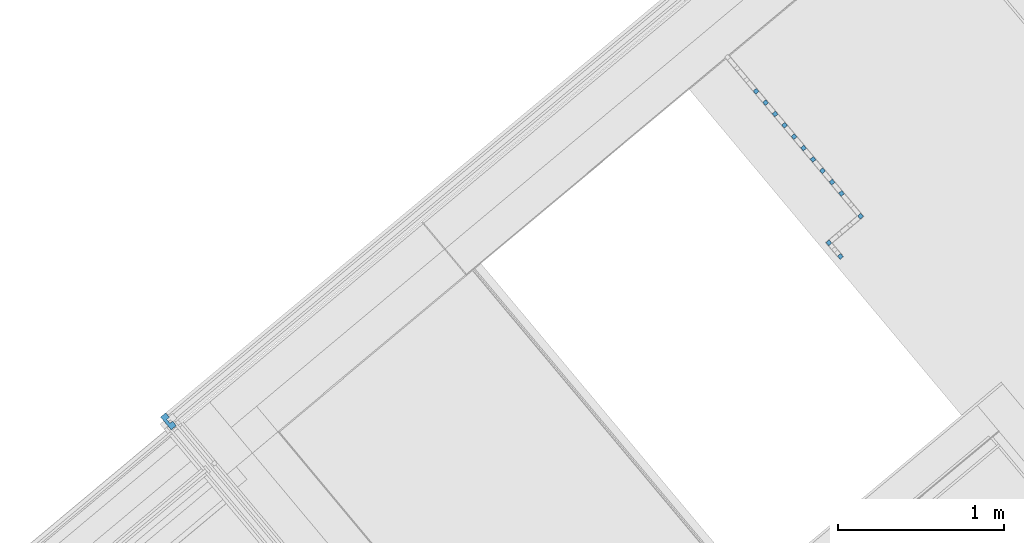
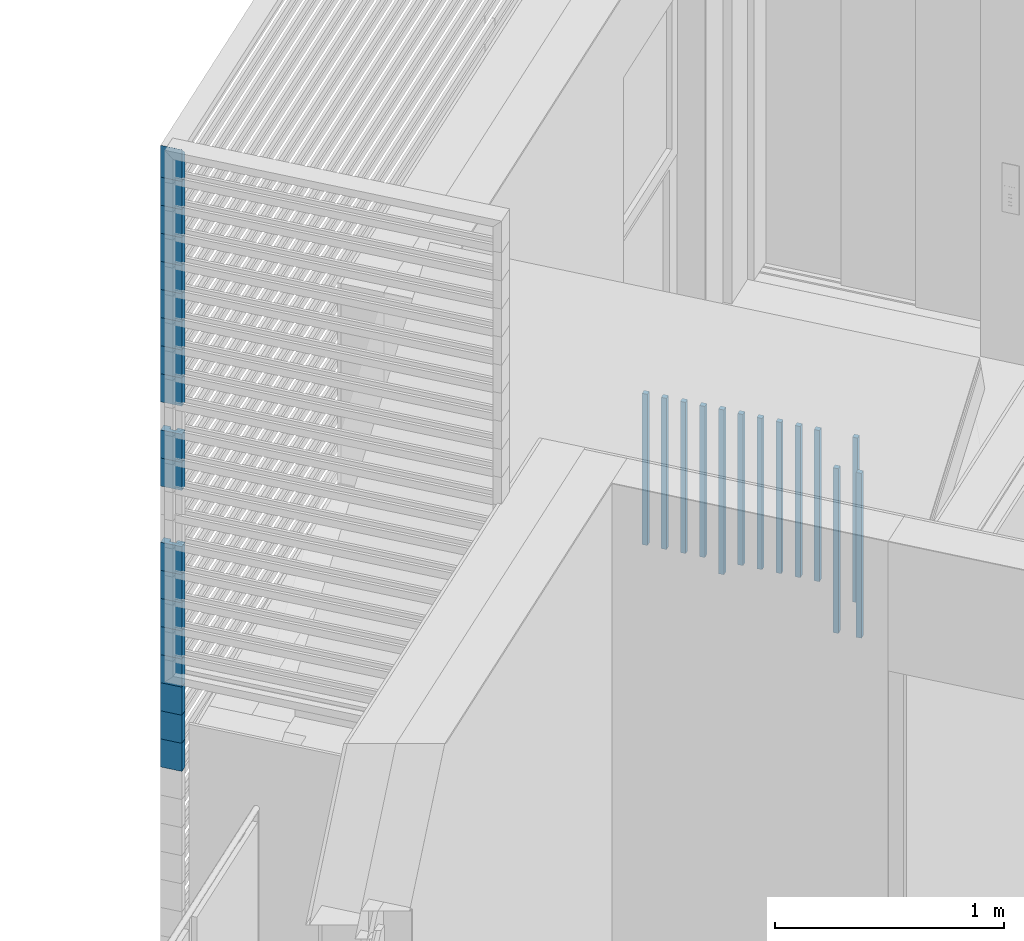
# One storey, part 39 of 47: 32 building element parts, 2 elements without a shape of their own.
"""IFC4 building model written with IfcOpenShell, lengths in metres."""

from ifc_helpers import new_model, entity, si_unit, converted_unit, derived_unit, direction, frame, origin_with_axes, place, context, subcontext, project, spatial, polygons, material, type_object, element, aggregate, save


model = new_model("IFC4")

# Units and contexts
model_context = context("Model", 3, precision=1e-05, world=origin_with_axes(), true_north=direction((0.0, 1.0)))
body_context = subcontext(model_context, "Body", "Model", "MODEL_VIEW")
ifc_project = project(units=[si_unit("LENGTHUNIT", "METRE"), si_unit("AREAUNIT", "SQUARE_METRE"), si_unit("VOLUMEUNIT", "CUBIC_METRE"), converted_unit("PLANEANGLEUNIT", "DEGREE", entity("IfcPlaneAngleMeasure", 0.0174532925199), si_unit("PLANEANGLEUNIT", "RADIAN"), dimensions=[0, 0, 0, 0, 0, 0, 0]), converted_unit("TIMEUNIT", "Year", entity("IfcTimeMeasure", 31556926.0), si_unit("TIMEUNIT", "SECOND"), dimensions=[0, 0, 1, 0, 0, 0, 0]), si_unit("MASSUNIT", "GRAM", prefix="KILO"), si_unit("THERMODYNAMICTEMPERATUREUNIT", "DEGREE_CELSIUS"), si_unit("LUMINOUSINTENSITYUNIT", "LUMEN"), si_unit("ENERGYUNIT", "JOULE", prefix="MEGA"), derived_unit("THERMALCONDUCTANCEUNIT", [(si_unit("POWERUNIT", "WATT"), 1), (si_unit("LENGTHUNIT", "METRE"), -1), (si_unit("THERMODYNAMICTEMPERATUREUNIT", "KELVIN"), -1)]), derived_unit("SPECIFICHEATCAPACITYUNIT", [(si_unit("ENERGYUNIT", "JOULE"), 1), (si_unit("MASSUNIT", "GRAM", prefix="KILO"), -1), (si_unit("THERMODYNAMICTEMPERATUREUNIT", "KELVIN"), -1)]), derived_unit("MASSDENSITYUNIT", [(si_unit("MASSUNIT", "GRAM", prefix="KILO"), 1), (si_unit("VOLUMEUNIT", "CUBIC_METRE"), -1)])], contexts=[model_context])

# Site, building, storey
site_placement = place(None, frame((-0.00153261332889, -0.00661245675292, 0.0), z_axis=(0.0, 0.0, 1.0), x_axis=(1.0, 0.0, 0.0)))
site = spatial("IfcSite", under=ifc_project, at=site_placement, Name="Site", CompositionType="ELEMENT")
building_placement = place(site_placement, origin_with_axes())
building = spatial("IfcBuilding", under=site, at=building_placement, Name="Building", CompositionType="ELEMENT")
storey_placement = place(building_placement, frame((0.0, 0.0, 8.66), z_axis=(0.0, 0.0, 1.0), x_axis=(1.0, 0.0, 0.0)))
storey = spatial("IfcBuildingStorey", under=building, at=storey_placement, Name="DG2", CompositionType="ELEMENT", Elevation=8.66)

# Curtain wall, building element parts
curtain_wall_type = type_object("IfcCurtainWallType", Name="Fassadentyp", PredefinedType="NOTDEFINED")
curtain_wall_placement = place(storey_placement, frame((-2.95253507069, 23.8775371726, 0.32), z_axis=(0.0, 0.0, 1.0), x_axis=(1.0, 0.0, 0.0)))
curtain_wall = element("IfcCurtainWall", 1, at=curtain_wall_placement, inside=storey, type_object=curtain_wall_type, Name="Fassade-001", PredefinedType="NOTDEFINED")
ifc_material_1 = material(Name="Blech")
building_element_part_1_placement = place(curtain_wall_placement, origin_with_axes())
building_element_part_1 = element("IfcBuildingElementPart", 2, at=building_element_part_1_placement, material=ifc_material_1, Name="Blech", PredefinedType="NOTDEFINED", context=body_context, shape_type="Tessellation", body=[
    polygons([(-1.52830488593, -1.29478343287, 1.2), (-1.54752517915, -1.27174910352, 1.2), (-1.53216895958, -1.25893557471, 1.2), (-1.554592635, -1.23206219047, 1.2), (-1.58530507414, -1.25768924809, 1.2), (-1.52123743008, -1.33447034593, 1.2), (-1.49052499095, -1.3088432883, 1.2), (-1.51294866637, -1.28196990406, 1.2), (-1.52830488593, -1.29478343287, 1.05), (-1.54752517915, -1.27174910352, 1.05), (-1.53216895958, -1.25893557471, 1.05), (-1.554592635, -1.23206219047, 1.05), (-1.58530507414, -1.25768924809, 1.05), (-1.52123743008, -1.33447034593, 1.05), (-1.49052499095, -1.3088432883, 1.05), (-1.51294866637, -1.28196990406, 1.05)], [[[1, 2, 3, 4, 5, 6, 7, 8]], [[2, 1, 9, 10]], [[11, 3, 2, 10]], [[3, 11, 12, 4]], [[13, 5, 4, 12]], [[14, 6, 5, 13]], [[15, 7, 6, 14]], [[16, 8, 7, 15]], [[1, 8, 16, 9]], [[9, 16, 15, 14, 13, 12, 11, 10]]], closed=True),
])
building_element_part_2_placement = place(curtain_wall_placement, origin_with_axes())
building_element_part_2 = element("IfcBuildingElementPart", 3, at=building_element_part_2_placement, material=ifc_material_1, Name="Blech", PredefinedType="NOTDEFINED", context=body_context, shape_type="Tessellation", body=[
    polygons([(-1.52830488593, -1.29478343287, 2.85), (-1.54752517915, -1.27174910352, 2.85), (-1.53216895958, -1.25893557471, 2.85), (-1.554592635, -1.23206219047, 2.85), (-1.58530507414, -1.25768924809, 2.85), (-1.52123743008, -1.33447034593, 2.85), (-1.49052499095, -1.3088432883, 2.85), (-1.51294866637, -1.28196990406, 2.85), (-1.52830488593, -1.29478343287, 2.7), (-1.54752517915, -1.27174910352, 2.7), (-1.53216895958, -1.25893557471, 2.7), (-1.554592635, -1.23206219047, 2.7), (-1.58530507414, -1.25768924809, 2.7), (-1.52123743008, -1.33447034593, 2.7), (-1.49052499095, -1.3088432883, 2.7), (-1.51294866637, -1.28196990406, 2.7)], [[[1, 2, 3, 4, 5, 6, 7, 8]], [[2, 1, 9, 10]], [[11, 3, 2, 10]], [[3, 11, 12, 4]], [[13, 5, 4, 12]], [[14, 6, 5, 13]], [[15, 7, 6, 14]], [[16, 8, 7, 15]], [[1, 8, 16, 9]], [[9, 16, 15, 14, 13, 12, 11, 10]]], closed=True),
])
building_element_part_3_placement = place(curtain_wall_placement, origin_with_axes())
building_element_part_3 = element("IfcBuildingElementPart", 4, at=building_element_part_3_placement, material=ifc_material_1, Name="Blech", PredefinedType="NOTDEFINED", context=body_context, shape_type="Tessellation", body=[
    polygons([(-1.52830488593, -1.29478343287, 1.35), (-1.54752517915, -1.27174910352, 1.35), (-1.53216895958, -1.25893557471, 1.35), (-1.554592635, -1.23206219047, 1.35), (-1.58530507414, -1.25768924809, 1.35), (-1.52123743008, -1.33447034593, 1.35), (-1.49052499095, -1.3088432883, 1.35), (-1.51294866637, -1.28196990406, 1.35), (-1.52830488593, -1.29478343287, 1.2), (-1.54752517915, -1.27174910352, 1.2), (-1.53216895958, -1.25893557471, 1.2), (-1.554592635, -1.23206219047, 1.2), (-1.58530507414, -1.25768924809, 1.2), (-1.52123743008, -1.33447034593, 1.2), (-1.49052499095, -1.3088432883, 1.2), (-1.51294866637, -1.28196990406, 1.2)], [[[1, 2, 3, 4, 5, 6, 7, 8]], [[2, 1, 9, 10]], [[11, 3, 2, 10]], [[3, 11, 12, 4]], [[13, 5, 4, 12]], [[14, 6, 5, 13]], [[15, 7, 6, 14]], [[16, 8, 7, 15]], [[1, 8, 16, 9]], [[9, 16, 15, 14, 13, 12, 11, 10]]], closed=True),
])
building_element_part_4_placement = place(curtain_wall_placement, origin_with_axes())
building_element_part_4 = element("IfcBuildingElementPart", 5, at=building_element_part_4_placement, material=ifc_material_1, Name="Blech", PredefinedType="NOTDEFINED", context=body_context, shape_type="Tessellation", body=[
    polygons([(-1.52830488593, -1.29478343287, 1.5), (-1.54752517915, -1.27174910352, 1.5), (-1.53216895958, -1.25893557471, 1.5), (-1.554592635, -1.23206219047, 1.5), (-1.58530507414, -1.25768924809, 1.5), (-1.52123743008, -1.33447034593, 1.5), (-1.49052499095, -1.3088432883, 1.5), (-1.51294866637, -1.28196990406, 1.5), (-1.52830488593, -1.29478343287, 1.35), (-1.54752517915, -1.27174910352, 1.35), (-1.53216895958, -1.25893557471, 1.35), (-1.554592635, -1.23206219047, 1.35), (-1.58530507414, -1.25768924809, 1.35), (-1.52123743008, -1.33447034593, 1.35), (-1.49052499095, -1.3088432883, 1.35), (-1.51294866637, -1.28196990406, 1.35)], [[[1, 2, 3, 4, 5, 6, 7, 8]], [[2, 1, 9, 10]], [[11, 3, 2, 10]], [[3, 11, 12, 4]], [[13, 5, 4, 12]], [[14, 6, 5, 13]], [[15, 7, 6, 14]], [[16, 8, 7, 15]], [[1, 8, 16, 9]], [[9, 16, 15, 14, 13, 12, 11, 10]]], closed=True),
])
building_element_part_5_placement = place(curtain_wall_placement, origin_with_axes())
building_element_part_5 = element("IfcBuildingElementPart", 6, at=building_element_part_5_placement, material=ifc_material_1, Name="Blech", PredefinedType="NOTDEFINED", context=body_context, shape_type="Tessellation", body=[
    polygons([(-1.52830488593, -1.29478343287, 1.65), (-1.54752517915, -1.27174910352, 1.65), (-1.53216895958, -1.25893557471, 1.65), (-1.554592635, -1.23206219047, 1.65), (-1.58530507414, -1.25768924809, 1.65), (-1.52123743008, -1.33447034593, 1.65), (-1.49052499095, -1.3088432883, 1.65), (-1.51294866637, -1.28196990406, 1.65), (-1.52830488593, -1.29478343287, 1.5), (-1.54752517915, -1.27174910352, 1.5), (-1.53216895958, -1.25893557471, 1.5), (-1.554592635, -1.23206219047, 1.5), (-1.58530507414, -1.25768924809, 1.5), (-1.52123743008, -1.33447034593, 1.5), (-1.49052499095, -1.3088432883, 1.5), (-1.51294866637, -1.28196990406, 1.5)], [[[1, 2, 3, 4, 5, 6, 7, 8]], [[2, 1, 9, 10]], [[11, 3, 2, 10]], [[3, 11, 12, 4]], [[13, 5, 4, 12]], [[14, 6, 5, 13]], [[15, 7, 6, 14]], [[16, 8, 7, 15]], [[1, 8, 16, 9]], [[9, 16, 15, 14, 13, 12, 11, 10]]], closed=True),
])
building_element_part_6_placement = place(curtain_wall_placement, origin_with_axes())
building_element_part_6 = element("IfcBuildingElementPart", 7, at=building_element_part_6_placement, material=ifc_material_1, Name="Blech", PredefinedType="NOTDEFINED", context=body_context, shape_type="Tessellation", body=[
    polygons([(-1.52830488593, -1.29478343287, 1.8), (-1.54752517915, -1.27174910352, 1.8), (-1.53216895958, -1.25893557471, 1.8), (-1.554592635, -1.23206219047, 1.8), (-1.58530507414, -1.25768924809, 1.8), (-1.52123743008, -1.33447034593, 1.8), (-1.49052499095, -1.3088432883, 1.8), (-1.51294866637, -1.28196990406, 1.8), (-1.52830488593, -1.29478343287, 1.65), (-1.54752517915, -1.27174910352, 1.65), (-1.53216895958, -1.25893557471, 1.65), (-1.554592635, -1.23206219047, 1.65), (-1.58530507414, -1.25768924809, 1.65), (-1.52123743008, -1.33447034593, 1.65), (-1.49052499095, -1.3088432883, 1.65), (-1.51294866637, -1.28196990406, 1.65)], [[[1, 2, 3, 4, 5, 6, 7, 8]], [[2, 1, 9, 10]], [[11, 3, 2, 10]], [[3, 11, 12, 4]], [[13, 5, 4, 12]], [[14, 6, 5, 13]], [[15, 7, 6, 14]], [[16, 8, 7, 15]], [[1, 8, 16, 9]], [[9, 16, 15, 14, 13, 12, 11, 10]]], closed=True),
])
building_element_part_7_placement = place(curtain_wall_placement, origin_with_axes())
building_element_part_7 = element("IfcBuildingElementPart", 8, at=building_element_part_7_placement, material=ifc_material_1, Name="Blech", PredefinedType="NOTDEFINED", context=body_context, shape_type="Tessellation", body=[
    polygons([(-1.52830488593, -1.29478343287, 2.7), (-1.54752517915, -1.27174910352, 2.7), (-1.53216895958, -1.25893557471, 2.7), (-1.554592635, -1.23206219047, 2.7), (-1.58530507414, -1.25768924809, 2.7), (-1.52123743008, -1.33447034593, 2.7), (-1.49052499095, -1.3088432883, 2.7), (-1.51294866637, -1.28196990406, 2.7), (-1.52830488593, -1.29478343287, 2.55), (-1.54752517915, -1.27174910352, 2.55), (-1.53216895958, -1.25893557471, 2.55), (-1.554592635, -1.23206219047, 2.55), (-1.58530507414, -1.25768924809, 2.55), (-1.52123743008, -1.33447034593, 2.55), (-1.49052499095, -1.3088432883, 2.55), (-1.51294866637, -1.28196990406, 2.55)], [[[1, 2, 3, 4, 5, 6, 7, 8]], [[2, 1, 9, 10]], [[11, 3, 2, 10]], [[3, 11, 12, 4]], [[13, 5, 4, 12]], [[14, 6, 5, 13]], [[15, 7, 6, 14]], [[16, 8, 7, 15]], [[1, 8, 16, 9]], [[9, 16, 15, 14, 13, 12, 11, 10]]], closed=True),
])
building_element_part_8_placement = place(curtain_wall_placement, origin_with_axes())
building_element_part_8 = element("IfcBuildingElementPart", 9, at=building_element_part_8_placement, material=ifc_material_1, Name="Blech", PredefinedType="NOTDEFINED", context=body_context, shape_type="Tessellation", body=[
    polygons([(-1.52830488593, -1.29478343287, 1.95), (-1.54752517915, -1.27174910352, 1.95), (-1.53216895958, -1.25893557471, 1.95), (-1.554592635, -1.23206219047, 1.95), (-1.58530507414, -1.25768924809, 1.95), (-1.52123743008, -1.33447034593, 1.95), (-1.49052499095, -1.3088432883, 1.95), (-1.51294866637, -1.28196990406, 1.95), (-1.52830488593, -1.29478343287, 1.8), (-1.54752517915, -1.27174910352, 1.8), (-1.53216895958, -1.25893557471, 1.8), (-1.554592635, -1.23206219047, 1.8), (-1.58530507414, -1.25768924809, 1.8), (-1.52123743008, -1.33447034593, 1.8), (-1.49052499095, -1.3088432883, 1.8), (-1.51294866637, -1.28196990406, 1.8)], [[[1, 2, 3, 4, 5, 6, 7, 8]], [[2, 1, 9, 10]], [[11, 3, 2, 10]], [[3, 11, 12, 4]], [[13, 5, 4, 12]], [[14, 6, 5, 13]], [[15, 7, 6, 14]], [[16, 8, 7, 15]], [[1, 8, 16, 9]], [[9, 16, 15, 14, 13, 12, 11, 10]]], closed=True),
])
building_element_part_9_placement = place(curtain_wall_placement, origin_with_axes())
building_element_part_9 = element("IfcBuildingElementPart", 10, at=building_element_part_9_placement, material=ifc_material_1, Name="Blech", PredefinedType="NOTDEFINED", context=body_context, shape_type="Tessellation", body=[
    polygons([(-1.52830488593, -1.29478343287, 2.1), (-1.54752517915, -1.27174910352, 2.1), (-1.53216895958, -1.25893557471, 2.1), (-1.554592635, -1.23206219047, 2.1), (-1.58530507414, -1.25768924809, 2.1), (-1.52123743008, -1.33447034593, 2.1), (-1.49052499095, -1.3088432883, 2.1), (-1.51294866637, -1.28196990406, 2.1), (-1.52830488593, -1.29478343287, 1.95), (-1.54752517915, -1.27174910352, 1.95), (-1.53216895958, -1.25893557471, 1.95), (-1.554592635, -1.23206219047, 1.95), (-1.58530507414, -1.25768924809, 1.95), (-1.52123743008, -1.33447034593, 1.95), (-1.49052499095, -1.3088432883, 1.95), (-1.51294866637, -1.28196990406, 1.95)], [[[1, 2, 3, 4, 5, 6, 7, 8]], [[2, 1, 9, 10]], [[11, 3, 2, 10]], [[3, 11, 12, 4]], [[13, 5, 4, 12]], [[14, 6, 5, 13]], [[15, 7, 6, 14]], [[16, 8, 7, 15]], [[1, 8, 16, 9]], [[9, 16, 15, 14, 13, 12, 11, 10]]], closed=True),
])
building_element_part_10_placement = place(curtain_wall_placement, origin_with_axes())
building_element_part_10 = element("IfcBuildingElementPart", 11, at=building_element_part_10_placement, material=ifc_material_1, Name="Blech", PredefinedType="NOTDEFINED", context=body_context, shape_type="Tessellation", body=[
    polygons([(-1.52830488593, -1.29478343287, 2.25), (-1.54752517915, -1.27174910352, 2.25), (-1.53216895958, -1.25893557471, 2.25), (-1.554592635, -1.23206219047, 2.25), (-1.58530507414, -1.25768924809, 2.25), (-1.52123743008, -1.33447034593, 2.25), (-1.49052499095, -1.3088432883, 2.25), (-1.51294866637, -1.28196990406, 2.25), (-1.52830488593, -1.29478343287, 2.1), (-1.54752517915, -1.27174910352, 2.1), (-1.53216895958, -1.25893557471, 2.1), (-1.554592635, -1.23206219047, 2.1), (-1.58530507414, -1.25768924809, 2.1), (-1.52123743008, -1.33447034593, 2.1), (-1.49052499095, -1.3088432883, 2.1), (-1.51294866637, -1.28196990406, 2.1)], [[[1, 2, 3, 4, 5, 6, 7, 8]], [[2, 1, 9, 10]], [[11, 3, 2, 10]], [[3, 11, 12, 4]], [[13, 5, 4, 12]], [[14, 6, 5, 13]], [[15, 7, 6, 14]], [[16, 8, 7, 15]], [[1, 8, 16, 9]], [[9, 16, 15, 14, 13, 12, 11, 10]]], closed=True),
])
building_element_part_11_placement = place(curtain_wall_placement, origin_with_axes())
building_element_part_11 = element("IfcBuildingElementPart", 12, at=building_element_part_11_placement, material=ifc_material_1, Name="Blech", PredefinedType="NOTDEFINED", context=body_context, shape_type="Tessellation", body=[
    polygons([(-1.52830488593, -1.29478343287, 3.15), (-1.54752517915, -1.27174910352, 3.15), (-1.53216895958, -1.25893557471, 3.15), (-1.554592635, -1.23206219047, 3.15), (-1.58530507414, -1.25768924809, 3.15), (-1.52123743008, -1.33447034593, 3.15), (-1.49052499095, -1.3088432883, 3.15), (-1.51294866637, -1.28196990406, 3.15), (-1.52830488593, -1.29478343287, 3.0), (-1.54752517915, -1.27174910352, 3.0), (-1.53216895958, -1.25893557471, 3.0), (-1.554592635, -1.23206219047, 3.0), (-1.58530507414, -1.25768924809, 3.0), (-1.52123743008, -1.33447034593, 3.0), (-1.49052499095, -1.3088432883, 3.0), (-1.51294866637, -1.28196990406, 3.0)], [[[1, 2, 3, 4, 5, 6, 7, 8]], [[2, 1, 9, 10]], [[11, 3, 2, 10]], [[3, 11, 12, 4]], [[13, 5, 4, 12]], [[14, 6, 5, 13]], [[15, 7, 6, 14]], [[16, 8, 7, 15]], [[1, 8, 16, 9]], [[9, 16, 15, 14, 13, 12, 11, 10]]], closed=True),
])
building_element_part_12_placement = place(curtain_wall_placement, origin_with_axes())
building_element_part_12 = element("IfcBuildingElementPart", 13, at=building_element_part_12_placement, material=ifc_material_1, Name="Blech", PredefinedType="NOTDEFINED", context=body_context, shape_type="Tessellation", body=[
    polygons([(-1.52830488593, -1.29478343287, 3.3), (-1.54752517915, -1.27174910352, 3.3), (-1.53216895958, -1.25893557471, 3.3), (-1.554592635, -1.23206219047, 3.3), (-1.58530507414, -1.25768924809, 3.3), (-1.52123743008, -1.33447034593, 3.3), (-1.49052499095, -1.3088432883, 3.3), (-1.51294866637, -1.28196990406, 3.3), (-1.52830488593, -1.29478343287, 3.15), (-1.54752517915, -1.27174910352, 3.15), (-1.53216895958, -1.25893557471, 3.15), (-1.554592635, -1.23206219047, 3.15), (-1.58530507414, -1.25768924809, 3.15), (-1.52123743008, -1.33447034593, 3.15), (-1.49052499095, -1.3088432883, 3.15), (-1.51294866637, -1.28196990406, 3.15)], [[[1, 2, 3, 4, 5, 6, 7, 8]], [[2, 1, 9, 10]], [[11, 3, 2, 10]], [[3, 11, 12, 4]], [[13, 5, 4, 12]], [[14, 6, 5, 13]], [[15, 7, 6, 14]], [[16, 8, 7, 15]], [[1, 8, 16, 9]], [[9, 16, 15, 14, 13, 12, 11, 10]]], closed=True),
])
building_element_part_13_placement = place(curtain_wall_placement, origin_with_axes())
building_element_part_13 = element("IfcBuildingElementPart", 14, at=building_element_part_13_placement, material=ifc_material_1, Name="Blech", PredefinedType="NOTDEFINED", context=body_context, shape_type="Tessellation", body=[
    polygons([(-1.52830488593, -1.29478343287, 3.45), (-1.54752517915, -1.27174910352, 3.45), (-1.53216895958, -1.25893557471, 3.45), (-1.554592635, -1.23206219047, 3.45), (-1.58530507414, -1.25768924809, 3.45), (-1.52123743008, -1.33447034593, 3.45), (-1.49052499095, -1.3088432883, 3.45), (-1.51294866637, -1.28196990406, 3.45), (-1.52830488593, -1.29478343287, 3.3), (-1.54752517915, -1.27174910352, 3.3), (-1.53216895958, -1.25893557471, 3.3), (-1.554592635, -1.23206219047, 3.3), (-1.58530507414, -1.25768924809, 3.3), (-1.52123743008, -1.33447034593, 3.3), (-1.49052499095, -1.3088432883, 3.3), (-1.51294866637, -1.28196990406, 3.3)], [[[1, 2, 3, 4, 5, 6, 7, 8]], [[2, 1, 9, 10]], [[11, 3, 2, 10]], [[3, 11, 12, 4]], [[13, 5, 4, 12]], [[14, 6, 5, 13]], [[15, 7, 6, 14]], [[16, 8, 7, 15]], [[1, 8, 16, 9]], [[9, 16, 15, 14, 13, 12, 11, 10]]], closed=True),
])
building_element_part_14_placement = place(curtain_wall_placement, origin_with_axes())
building_element_part_14 = element("IfcBuildingElementPart", 15, at=building_element_part_14_placement, material=ifc_material_1, Name="Blech", PredefinedType="NOTDEFINED", context=body_context, shape_type="Tessellation", body=[
    polygons([(-1.52830488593, -1.29478343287, 3.6), (-1.54752517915, -1.27174910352, 3.6), (-1.53216895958, -1.25893557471, 3.6), (-1.554592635, -1.23206219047, 3.6), (-1.58530507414, -1.25768924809, 3.6), (-1.52123743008, -1.33447034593, 3.6), (-1.49052499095, -1.3088432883, 3.6), (-1.51294866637, -1.28196990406, 3.6), (-1.52830488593, -1.29478343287, 3.45), (-1.54752517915, -1.27174910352, 3.45), (-1.53216895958, -1.25893557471, 3.45), (-1.554592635, -1.23206219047, 3.45), (-1.58530507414, -1.25768924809, 3.45), (-1.52123743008, -1.33447034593, 3.45), (-1.49052499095, -1.3088432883, 3.45), (-1.51294866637, -1.28196990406, 3.45)], [[[1, 2, 3, 4, 5, 6, 7, 8]], [[2, 1, 9, 10]], [[11, 3, 2, 10]], [[3, 11, 12, 4]], [[13, 5, 4, 12]], [[14, 6, 5, 13]], [[15, 7, 6, 14]], [[16, 8, 7, 15]], [[1, 8, 16, 9]], [[9, 16, 15, 14, 13, 12, 11, 10]]], closed=True),
])
building_element_part_15_placement = place(curtain_wall_placement, origin_with_axes())
building_element_part_15 = element("IfcBuildingElementPart", 16, at=building_element_part_15_placement, material=ifc_material_1, Name="Blech", PredefinedType="NOTDEFINED", context=body_context, shape_type="Tessellation", body=[
    polygons([(-1.52830488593, -1.29478343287, 3.75), (-1.54752517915, -1.27174910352, 3.75), (-1.53216895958, -1.25893557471, 3.75), (-1.554592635, -1.23206219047, 3.75), (-1.58530507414, -1.25768924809, 3.75), (-1.52123743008, -1.33447034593, 3.75), (-1.49052499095, -1.3088432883, 3.75), (-1.51294866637, -1.28196990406, 3.75), (-1.52830488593, -1.29478343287, 3.6), (-1.54752517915, -1.27174910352, 3.6), (-1.53216895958, -1.25893557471, 3.6), (-1.554592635, -1.23206219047, 3.6), (-1.58530507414, -1.25768924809, 3.6), (-1.52123743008, -1.33447034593, 3.6), (-1.49052499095, -1.3088432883, 3.6), (-1.51294866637, -1.28196990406, 3.6)], [[[1, 2, 3, 4, 5, 6, 7, 8]], [[2, 1, 9, 10]], [[11, 3, 2, 10]], [[3, 11, 12, 4]], [[13, 5, 4, 12]], [[14, 6, 5, 13]], [[15, 7, 6, 14]], [[16, 8, 7, 15]], [[1, 8, 16, 9]], [[9, 16, 15, 14, 13, 12, 11, 10]]], closed=True),
])
building_element_part_16_placement = place(curtain_wall_placement, origin_with_axes())
building_element_part_16 = element("IfcBuildingElementPart", 17, at=building_element_part_16_placement, material=ifc_material_1, Name="Blech", PredefinedType="NOTDEFINED", context=body_context, shape_type="Tessellation", body=[
    polygons([(-1.52830488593, -1.29478343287, 3.9), (-1.54752517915, -1.27174910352, 3.9), (-1.53216895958, -1.25893557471, 3.9), (-1.554592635, -1.23206219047, 3.9), (-1.58530507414, -1.25768924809, 3.9), (-1.52123743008, -1.33447034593, 3.9), (-1.49052499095, -1.3088432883, 3.9), (-1.51294866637, -1.28196990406, 3.9), (-1.52830488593, -1.29478343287, 3.75), (-1.54752517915, -1.27174910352, 3.75), (-1.53216895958, -1.25893557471, 3.75), (-1.554592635, -1.23206219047, 3.75), (-1.58530507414, -1.25768924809, 3.75), (-1.52123743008, -1.33447034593, 3.75), (-1.49052499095, -1.3088432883, 3.75), (-1.51294866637, -1.28196990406, 3.75)], [[[1, 2, 3, 4, 5, 6, 7, 8]], [[2, 1, 9, 10]], [[11, 3, 2, 10]], [[3, 11, 12, 4]], [[13, 5, 4, 12]], [[14, 6, 5, 13]], [[15, 7, 6, 14]], [[16, 8, 7, 15]], [[1, 8, 16, 9]], [[9, 16, 15, 14, 13, 12, 11, 10]]], closed=True),
])
building_element_part_17_placement = place(curtain_wall_placement, origin_with_axes())
building_element_part_17 = element("IfcBuildingElementPart", 18, at=building_element_part_17_placement, material=ifc_material_1, Name="Blech", PredefinedType="NOTDEFINED", context=body_context, shape_type="Tessellation", body=[
    polygons([(-1.52830488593, -1.29478343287, 4.05), (-1.54752517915, -1.27174910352, 4.05), (-1.53216895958, -1.25893557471, 4.05), (-1.554592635, -1.23206219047, 4.05), (-1.58530507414, -1.25768924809, 4.05), (-1.52123743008, -1.33447034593, 4.05), (-1.49052499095, -1.3088432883, 4.05), (-1.51294866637, -1.28196990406, 4.05), (-1.52830488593, -1.29478343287, 3.9), (-1.54752517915, -1.27174910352, 3.9), (-1.53216895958, -1.25893557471, 3.9), (-1.554592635, -1.23206219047, 3.9), (-1.58530507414, -1.25768924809, 3.9), (-1.52123743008, -1.33447034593, 3.9), (-1.49052499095, -1.3088432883, 3.9), (-1.51294866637, -1.28196990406, 3.9)], [[[1, 2, 3, 4, 5, 6, 7, 8]], [[2, 1, 9, 10]], [[11, 3, 2, 10]], [[3, 11, 12, 4]], [[13, 5, 4, 12]], [[14, 6, 5, 13]], [[15, 7, 6, 14]], [[16, 8, 7, 15]], [[1, 8, 16, 9]], [[9, 16, 15, 14, 13, 12, 11, 10]]], closed=True),
])
building_element_part_18_placement = place(curtain_wall_placement, origin_with_axes())
building_element_part_18 = element("IfcBuildingElementPart", 19, at=building_element_part_18_placement, material=ifc_material_1, Name="Blech", PredefinedType="NOTDEFINED", context=body_context, shape_type="Tessellation", body=[
    polygons([(-1.52830488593, -1.29478343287, 4.2), (-1.54752517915, -1.27174910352, 4.2), (-1.53216895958, -1.25893557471, 4.2), (-1.554592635, -1.23206219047, 4.2), (-1.58530507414, -1.25768924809, 4.2), (-1.52123743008, -1.33447034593, 4.2), (-1.49052499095, -1.3088432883, 4.2), (-1.51294866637, -1.28196990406, 4.2), (-1.52830488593, -1.29478343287, 4.05), (-1.54752517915, -1.27174910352, 4.05), (-1.53216895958, -1.25893557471, 4.05), (-1.554592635, -1.23206219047, 4.05), (-1.58530507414, -1.25768924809, 4.05), (-1.52123743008, -1.33447034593, 4.05), (-1.49052499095, -1.3088432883, 4.05), (-1.51294866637, -1.28196990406, 4.05)], [[[1, 2, 3, 4, 5, 6, 7, 8]], [[2, 1, 9, 10]], [[11, 3, 2, 10]], [[3, 11, 12, 4]], [[13, 5, 4, 12]], [[14, 6, 5, 13]], [[15, 7, 6, 14]], [[16, 8, 7, 15]], [[1, 8, 16, 9]], [[9, 16, 15, 14, 13, 12, 11, 10]]], closed=True),
])
building_element_part_19_placement = place(curtain_wall_placement, origin_with_axes())
building_element_part_19 = element("IfcBuildingElementPart", 20, at=building_element_part_19_placement, material=ifc_material_1, Name="Blech", PredefinedType="NOTDEFINED", context=body_context, shape_type="Tessellation", body=[
    polygons([(-1.52830488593, -1.29478343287, 4.35000006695), (-1.54752517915, -1.27174910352, 4.35000006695), (-1.53216895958, -1.25893557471, 4.33000006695), (-1.554592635, -1.23206219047, 4.33000006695), (-1.58530507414, -1.25768924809, 4.37000006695), (-1.52123743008, -1.33447034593, 4.37000006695), (-1.49052499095, -1.3088432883, 4.33000006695), (-1.51294866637, -1.28196990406, 4.33000006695), (-1.52830488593, -1.29478343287, 4.2), (-1.54752517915, -1.27174910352, 4.2), (-1.53216895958, -1.25893557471, 4.2), (-1.554592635, -1.23206219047, 4.2), (-1.58530507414, -1.25768924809, 4.2), (-1.52123743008, -1.33447034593, 4.2), (-1.49052499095, -1.3088432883, 4.2), (-1.51294866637, -1.28196990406, 4.2)], [[[1, 2, 3, 4, 5, 6, 7, 8]], [[2, 1, 9, 10]], [[11, 3, 2, 10]], [[3, 11, 12, 4]], [[13, 5, 4, 12]], [[14, 6, 5, 13]], [[15, 7, 6, 14]], [[16, 8, 7, 15]], [[1, 8, 16, 9]], [[9, 16, 15, 14, 13, 12, 11, 10]]], closed=True),
])
aggregate(curtain_wall, [building_element_part_1, building_element_part_2, building_element_part_3, building_element_part_4, building_element_part_5, building_element_part_6, building_element_part_7, building_element_part_8, building_element_part_9, building_element_part_10, building_element_part_11, building_element_part_12, building_element_part_13, building_element_part_14, building_element_part_15, building_element_part_16, building_element_part_17, building_element_part_18, building_element_part_19])

# Railing, building element parts
railing_type = type_object("IfcRailingType", Name="Geländerart", PredefinedType="NOTDEFINED")
railing_placement = place(storey_placement, frame((-1.1650889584, 24.7530172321, 0.05), z_axis=(0.0, 0.0, 1.0), x_axis=(1.0, 0.0, 0.0)))
railing = element("IfcRailing", 21, at=railing_placement, inside=storey, type_object=railing_type, Name="Geländer - 001", PredefinedType="NOTDEFINED")
ifc_material_2 = material(Name="BEKLEIDUNG")
building_element_part_20_placement = place(railing_placement, origin_with_axes())
building_element_part_20 = element("IfcBuildingElementPart", 22, at=building_element_part_20_placement, material=ifc_material_2, Name="BEKLEIDUNG", PredefinedType="NOTDEFINED", context=body_context, shape_type="Tessellation", body=[
    polygons([(0.836143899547, -0.942270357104, 0.0), (0.855328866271, -0.926241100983, 0.0), (0.855328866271, -0.926241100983, 0.88), (0.836143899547, -0.942270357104, 0.88), (0.820114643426, -0.92308539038, 0.0), (0.83929961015, -0.907056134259, 0.0), (0.83929961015, -0.907056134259, 0.88), (0.820114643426, -0.92308539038, 0.88)], [[[1, 2, 3, 4]], [[1, 5, 6, 2]], [[2, 6, 7, 3]], [[4, 3, 7, 8]], [[5, 1, 4, 8]], [[6, 5, 8, 7]]], closed=True),
])
building_element_part_21_placement = place(railing_placement, origin_with_axes())
building_element_part_21 = element("IfcBuildingElementPart", 23, at=building_element_part_21_placement, material=ifc_material_2, Name="BEKLEIDUNG", PredefinedType="NOTDEFINED", context=body_context, shape_type="Tessellation", body=[
    polygons([(0.629909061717, -1.08347569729, 0.0), (0.646021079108, -1.10259121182, 0.0), (0.646021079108, -1.10259121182, 0.88), (0.629909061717, -1.08347569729, 0.88), (0.649024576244, -1.0673636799, 0.0), (0.665136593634, -1.08647919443, 0.0), (0.665136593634, -1.08647919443, 0.88), (0.649024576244, -1.0673636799, 0.88)], [[[1, 2, 3, 4]], [[1, 5, 6, 2]], [[2, 6, 7, 3]], [[4, 3, 7, 8]], [[5, 1, 4, 8]], [[6, 5, 8, 7]]], closed=True),
])
building_element_part_22_placement = place(railing_placement, origin_with_axes())
building_element_part_22 = element("IfcBuildingElementPart", 24, at=building_element_part_22_placement, material=ifc_material_2, Name="BEKLEIDUNG", PredefinedType="NOTDEFINED", context=body_context, shape_type="Tessellation", body=[
    polygons([(0.71546744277, -1.18434299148, 0.0), (0.734527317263, -1.16816519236, 0.0), (0.734527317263, -1.16816519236, 0.88), (0.71546744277, -1.18434299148, 0.88), (0.699289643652, -1.16528311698, 0.0), (0.718349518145, -1.14910531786, 0.0), (0.718349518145, -1.14910531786, 0.88), (0.699289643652, -1.16528311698, 0.88)], [[[1, 2, 3, 4]], [[1, 5, 6, 2]], [[2, 6, 7, 3]], [[4, 3, 7, 8]], [[5, 1, 4, 8]], [[6, 5, 8, 7]]], closed=True),
])
building_element_part_23_placement = place(railing_placement, origin_with_axes())
building_element_part_23 = element("IfcBuildingElementPart", 25, at=building_element_part_23_placement, material=ifc_material_2, Name="BEKLEIDUNG", PredefinedType="NOTDEFINED", context=body_context, shape_type="Tessellation", body=[
    polygons([(0.208081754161, -0.19056040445, 0.07), (0.227266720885, -0.174531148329, 0.07), (0.227266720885, -0.174531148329, 0.8775), (0.208081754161, -0.19056040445, 0.8775), (0.19205249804, -0.171375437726, 0.07), (0.211237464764, -0.155346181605, 0.07), (0.211237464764, -0.155346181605, 0.8775), (0.19205249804, -0.171375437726, 0.8775)], [[[1, 2, 3, 4]], [[1, 5, 6, 2]], [[2, 6, 7, 3]], [[4, 3, 7, 8]], [[5, 1, 4, 8]], [[6, 5, 8, 7]]], closed=True),
])
building_element_part_24_placement = place(railing_placement, origin_with_axes())
building_element_part_24 = element("IfcBuildingElementPart", 26, at=building_element_part_24_placement, material=ifc_material_2, Name="BEKLEIDUNG", PredefinedType="NOTDEFINED", context=body_context, shape_type="Tessellation", body=[
    polygons([(0.265178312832, -0.258897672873, 0.07), (0.284363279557, -0.242868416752, 0.07), (0.284363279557, -0.242868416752, 0.8775), (0.265178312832, -0.258897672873, 0.8775), (0.249149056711, -0.239712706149, 0.07), (0.268334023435, -0.223683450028, 0.07), (0.268334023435, -0.223683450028, 0.8775), (0.249149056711, -0.239712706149, 0.8775)], [[[1, 2, 3, 4]], [[1, 5, 6, 2]], [[2, 6, 7, 3]], [[4, 3, 7, 8]], [[5, 1, 4, 8]], [[6, 5, 8, 7]]], closed=True),
])
building_element_part_25_placement = place(railing_placement, origin_with_axes())
building_element_part_25 = element("IfcBuildingElementPart", 27, at=building_element_part_25_placement, material=ifc_material_2, Name="BEKLEIDUNG", PredefinedType="NOTDEFINED", context=body_context, shape_type="Tessellation", body=[
    polygons([(0.322274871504, -0.327234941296, 0.07), (0.341459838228, -0.311205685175, 0.07), (0.341459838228, -0.311205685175, 0.8775), (0.322274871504, -0.327234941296, 0.8775), (0.306245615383, -0.308049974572, 0.07), (0.325430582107, -0.292020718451, 0.07), (0.325430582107, -0.292020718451, 0.8775), (0.306245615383, -0.308049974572, 0.8775)], [[[1, 2, 3, 4]], [[1, 5, 6, 2]], [[2, 6, 7, 3]], [[4, 3, 7, 8]], [[5, 1, 4, 8]], [[6, 5, 8, 7]]], closed=True),
])
building_element_part_26_placement = place(railing_placement, origin_with_axes())
building_element_part_26 = element("IfcBuildingElementPart", 28, at=building_element_part_26_placement, material=ifc_material_2, Name="BEKLEIDUNG", PredefinedType="NOTDEFINED", context=body_context, shape_type="Tessellation", body=[
    polygons([(0.379371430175, -0.395572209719, 0.07), (0.398556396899, -0.379542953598, 0.07), (0.398556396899, -0.379542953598, 0.8775), (0.379371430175, -0.395572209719, 0.8775), (0.363342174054, -0.376387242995, 0.07), (0.382527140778, -0.360357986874, 0.07), (0.382527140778, -0.360357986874, 0.8775), (0.363342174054, -0.376387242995, 0.8775)], [[[1, 2, 3, 4]], [[1, 5, 6, 2]], [[2, 6, 7, 3]], [[4, 3, 7, 8]], [[5, 1, 4, 8]], [[6, 5, 8, 7]]], closed=True),
])
building_element_part_27_placement = place(railing_placement, origin_with_axes())
building_element_part_27 = element("IfcBuildingElementPart", 29, at=building_element_part_27_placement, material=ifc_material_2, Name="BEKLEIDUNG", PredefinedType="NOTDEFINED", context=body_context, shape_type="Tessellation", body=[
    polygons([(0.436467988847, -0.463909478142, 0.0), (0.455652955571, -0.447880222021, 0.0), (0.455652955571, -0.447880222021, 0.88), (0.436467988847, -0.463909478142, 0.88), (0.420438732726, -0.444724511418, 0.0), (0.43962369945, -0.428695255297, 0.0), (0.43962369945, -0.428695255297, 0.88), (0.420438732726, -0.444724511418, 0.88)], [[[1, 2, 3, 4]], [[1, 5, 6, 2]], [[2, 6, 7, 3]], [[4, 3, 7, 8]], [[5, 1, 4, 8]], [[6, 5, 8, 7]]], closed=True),
])
building_element_part_28_placement = place(railing_placement, origin_with_axes())
building_element_part_28 = element("IfcBuildingElementPart", 30, at=building_element_part_28_placement, material=ifc_material_2, Name="BEKLEIDUNG", PredefinedType="NOTDEFINED", context=body_context, shape_type="Tessellation", body=[
    polygons([(0.493564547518, -0.532246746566, 0.07), (0.512749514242, -0.516217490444, 0.07), (0.512749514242, -0.516217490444, 0.8775), (0.493564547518, -0.532246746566, 0.8775), (0.477535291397, -0.513061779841, 0.07), (0.496720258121, -0.49703252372, 0.07), (0.496720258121, -0.49703252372, 0.8775), (0.477535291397, -0.513061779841, 0.8775)], [[[1, 2, 3, 4]], [[1, 5, 6, 2]], [[2, 6, 7, 3]], [[4, 3, 7, 8]], [[5, 1, 4, 8]], [[6, 5, 8, 7]]], closed=True),
])
building_element_part_29_placement = place(railing_placement, origin_with_axes())
building_element_part_29 = element("IfcBuildingElementPart", 31, at=building_element_part_29_placement, material=ifc_material_2, Name="BEKLEIDUNG", PredefinedType="NOTDEFINED", context=body_context, shape_type="Tessellation", body=[
    polygons([(0.55066110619, -0.600584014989, 0.07), (0.569846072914, -0.584554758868, 0.07), (0.569846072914, -0.584554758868, 0.8775), (0.55066110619, -0.600584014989, 0.8775), (0.534631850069, -0.581399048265, 0.07), (0.553816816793, -0.565369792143, 0.07), (0.553816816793, -0.565369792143, 0.8775), (0.534631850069, -0.581399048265, 0.8775)], [[[1, 2, 3, 4]], [[1, 5, 6, 2]], [[2, 6, 7, 3]], [[4, 3, 7, 8]], [[5, 1, 4, 8]], [[6, 5, 8, 7]]], closed=True),
])
building_element_part_30_placement = place(railing_placement, origin_with_axes())
building_element_part_30 = element("IfcBuildingElementPart", 32, at=building_element_part_30_placement, material=ifc_material_2, Name="BEKLEIDUNG", PredefinedType="NOTDEFINED", context=body_context, shape_type="Tessellation", body=[
    polygons([(0.607757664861, -0.668921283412, 0.07), (0.626942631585, -0.652892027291, 0.07), (0.626942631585, -0.652892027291, 0.8775), (0.607757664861, -0.668921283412, 0.8775), (0.59172840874, -0.649736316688, 0.07), (0.610913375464, -0.633707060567, 0.07), (0.610913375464, -0.633707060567, 0.8775), (0.59172840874, -0.649736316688, 0.8775)], [[[1, 2, 3, 4]], [[1, 5, 6, 2]], [[2, 6, 7, 3]], [[4, 3, 7, 8]], [[5, 1, 4, 8]], [[6, 5, 8, 7]]], closed=True),
])
building_element_part_31_placement = place(railing_placement, origin_with_axes())
building_element_part_31 = element("IfcBuildingElementPart", 33, at=building_element_part_31_placement, material=ifc_material_2, Name="BEKLEIDUNG", PredefinedType="NOTDEFINED", context=body_context, shape_type="Tessellation", body=[
    polygons([(0.664854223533, -0.737258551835, 0.07), (0.684039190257, -0.721229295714, 0.07), (0.684039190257, -0.721229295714, 0.8775), (0.664854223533, -0.737258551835, 0.8775), (0.648824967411, -0.718073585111, 0.07), (0.668009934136, -0.70204432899, 0.07), (0.668009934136, -0.70204432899, 0.8775), (0.648824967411, -0.718073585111, 0.8775)], [[[1, 2, 3, 4]], [[1, 5, 6, 2]], [[2, 6, 7, 3]], [[4, 3, 7, 8]], [[5, 1, 4, 8]], [[6, 5, 8, 7]]], closed=True),
])
building_element_part_32_placement = place(railing_placement, origin_with_axes())
building_element_part_32 = element("IfcBuildingElementPart", 34, at=building_element_part_32_placement, material=ifc_material_2, Name="BEKLEIDUNG", PredefinedType="NOTDEFINED", context=body_context, shape_type="Tessellation", body=[
    polygons([(0.721950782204, -0.805595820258, 0.07), (0.741135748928, -0.789566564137, 0.07), (0.741135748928, -0.789566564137, 0.8775), (0.721950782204, -0.805595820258, 0.8775), (0.705921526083, -0.786410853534, 0.07), (0.725106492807, -0.770381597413, 0.07), (0.725106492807, -0.770381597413, 0.8775), (0.705921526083, -0.786410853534, 0.8775)], [[[1, 2, 3, 4]], [[1, 5, 6, 2]], [[2, 6, 7, 3]], [[4, 3, 7, 8]], [[5, 1, 4, 8]], [[6, 5, 8, 7]]], closed=True),
])
aggregate(railing, [building_element_part_20, building_element_part_21, building_element_part_22, building_element_part_23, building_element_part_24, building_element_part_25, building_element_part_26, building_element_part_27, building_element_part_28, building_element_part_29, building_element_part_30, building_element_part_31, building_element_part_32])

save(model, "model.ifc")
